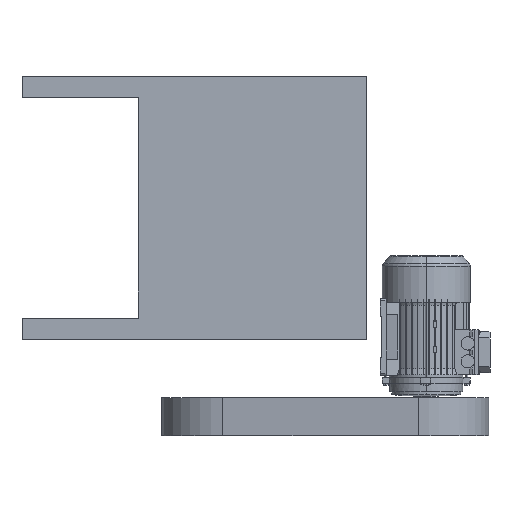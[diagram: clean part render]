
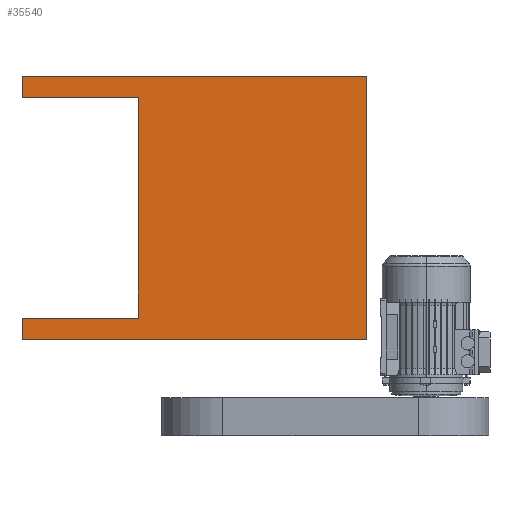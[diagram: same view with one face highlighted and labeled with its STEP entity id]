
A CAD part, front view. The second image highlights one B-rep face of the part: STEP entity #35540.
In plain terms, the highlighted planar face has unit normal (0, -1, 0).
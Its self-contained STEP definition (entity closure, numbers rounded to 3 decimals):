
#348 = ORIENTED_EDGE ( 'NONE', *, *, #15006, .T. ) ;
#1059 = VERTEX_POINT ( 'NONE', #12915 ) ;
#1217 = DIRECTION ( 'NONE',  ( -1., 0., 0. ) ) ;
#1617 = LINE ( 'NONE', #39390, #32968 ) ;
#2229 = EDGE_CURVE ( 'NONE', #5886, #31182, #10259, .T. ) ;
#2508 = VECTOR ( 'NONE', #26790, 1000. ) ;
#4464 = ORIENTED_EDGE ( 'NONE', *, *, #16593, .T. ) ;
#4685 = CARTESIAN_POINT ( 'NONE',  ( -122.515, -176.895, -240. ) ) ;
#4921 = CARTESIAN_POINT ( 'NONE',  ( -122.515, -176.895, -240. ) ) ;
#5886 = VERTEX_POINT ( 'NONE', #24301 ) ;
#7493 = CARTESIAN_POINT ( 'NONE',  ( -375.515, -176.895, 286. ) ) ;
#7550 = PLANE ( 'NONE',  #30492 ) ;
#7609 = VECTOR ( 'NONE', #32205, 1000. ) ;
#8630 = ORIENTED_EDGE ( 'NONE', *, *, #18169, .F. ) ;
#9376 = EDGE_CURVE ( 'NONE', #30092, #24048, #14761, .T. ) ;
#10259 = LINE ( 'NONE', #19982, #17741 ) ;
#10725 = DIRECTION ( 'NONE',  ( 0., 1., 0. ) ) ;
#12915 = CARTESIAN_POINT ( 'NONE',  ( 374.485, -176.895, 286. ) ) ;
#14386 = DIRECTION ( 'NONE',  ( 0., 0., -1. ) ) ;
#14558 = VERTEX_POINT ( 'NONE', #19630 ) ;
#14761 = LINE ( 'NONE', #4921, #20280 ) ;
#15006 = EDGE_CURVE ( 'NONE', #17714, #14558, #26444, .T. ) ;
#15121 = DIRECTION ( 'NONE',  ( -1., 0., 0. ) ) ;
#15427 = CARTESIAN_POINT ( 'NONE',  ( -375.515, -176.895, -286. ) ) ;
#16017 = CARTESIAN_POINT ( 'NONE',  ( 374.485, -176.895, -286. ) ) ;
#16349 = EDGE_CURVE ( 'NONE', #31182, #30092, #33458, .T. ) ;
#16593 = EDGE_CURVE ( 'NONE', #24048, #17714, #1617, .T. ) ;
#16946 = VECTOR ( 'NONE', #39757, 1000. ) ;
#17077 = ORIENTED_EDGE ( 'NONE', *, *, #20092, .T. ) ;
#17326 = LINE ( 'NONE', #7493, #23754 ) ;
#17714 = VERTEX_POINT ( 'NONE', #19345 ) ;
#17741 = VECTOR ( 'NONE', #20416, 1000. ) ;
#17937 = EDGE_CURVE ( 'NONE', #20783, #14558, #25309, .T. ) ;
#18121 = VECTOR ( 'NONE', #39240, 1000. ) ;
#18169 = EDGE_CURVE ( 'NONE', #1059, #20783, #34716, .T. ) ;
#19345 = CARTESIAN_POINT ( 'NONE',  ( -375.515, -176.895, -240. ) ) ;
#19447 = FACE_OUTER_BOUND ( 'NONE', #22033, .T. ) ;
#19630 = CARTESIAN_POINT ( 'NONE',  ( -375.515, -176.895, -286. ) ) ;
#19982 = CARTESIAN_POINT ( 'NONE',  ( -375.515, -176.895, 243. ) ) ;
#20092 = EDGE_CURVE ( 'NONE', #1059, #5886, #17326, .T. ) ;
#20280 = VECTOR ( 'NONE', #14386, 1000. ) ;
#20416 = DIRECTION ( 'NONE',  ( 0., 0., -1. ) ) ;
#20783 = VERTEX_POINT ( 'NONE', #16017 ) ;
#21451 = CARTESIAN_POINT ( 'NONE',  ( -375.515, -176.895, 240. ) ) ;
#22033 = EDGE_LOOP ( 'NONE', ( #34576, #36052, #4464, #348, #38062, #8630, #17077, #29258 ) ) ;
#23394 = CARTESIAN_POINT ( 'NONE',  ( 0., -176.895, 243. ) ) ;
#23718 = CARTESIAN_POINT ( 'NONE',  ( 374.485, -176.895, 243. ) ) ;
#23754 = VECTOR ( 'NONE', #1217, 1000. ) ;
#24048 = VERTEX_POINT ( 'NONE', #4685 ) ;
#24301 = CARTESIAN_POINT ( 'NONE',  ( -375.515, -176.895, 286. ) ) ;
#25309 = LINE ( 'NONE', #15427, #16946 ) ;
#26444 = LINE ( 'NONE', #27310, #18121 ) ;
#26790 = DIRECTION ( 'NONE',  ( 0., 0., -1. ) ) ;
#27310 = CARTESIAN_POINT ( 'NONE',  ( -375.515, -176.895, 243. ) ) ;
#29258 = ORIENTED_EDGE ( 'NONE', *, *, #2229, .T. ) ;
#30092 = VERTEX_POINT ( 'NONE', #36694 ) ;
#30492 = AXIS2_PLACEMENT_3D ( 'NONE', #23394, #10725, #32509 ) ;
#31182 = VERTEX_POINT ( 'NONE', #21451 ) ;
#32205 = DIRECTION ( 'NONE',  ( 1., 0., 0. ) ) ;
#32509 = DIRECTION ( 'NONE',  ( 0., 0., 1. ) ) ;
#32968 = VECTOR ( 'NONE', #15121, 1000. ) ;
#33458 = LINE ( 'NONE', #35217, #7609 ) ;
#34576 = ORIENTED_EDGE ( 'NONE', *, *, #16349, .T. ) ;
#34716 = LINE ( 'NONE', #23718, #2508 ) ;
#35217 = CARTESIAN_POINT ( 'NONE',  ( -375.515, -176.895, 240. ) ) ;
#35540 = ADVANCED_FACE ( 'NONE', ( #19447 ), #7550, .F. ) ;
#36052 = ORIENTED_EDGE ( 'NONE', *, *, #9376, .T. ) ;
#36694 = CARTESIAN_POINT ( 'NONE',  ( -122.515, -176.895, 240. ) ) ;
#38062 = ORIENTED_EDGE ( 'NONE', *, *, #17937, .F. ) ;
#39240 = DIRECTION ( 'NONE',  ( 0., 0., -1. ) ) ;
#39390 = CARTESIAN_POINT ( 'NONE',  ( -375.515, -176.895, -240. ) ) ;
#39757 = DIRECTION ( 'NONE',  ( -1., 0., 0. ) ) ;
